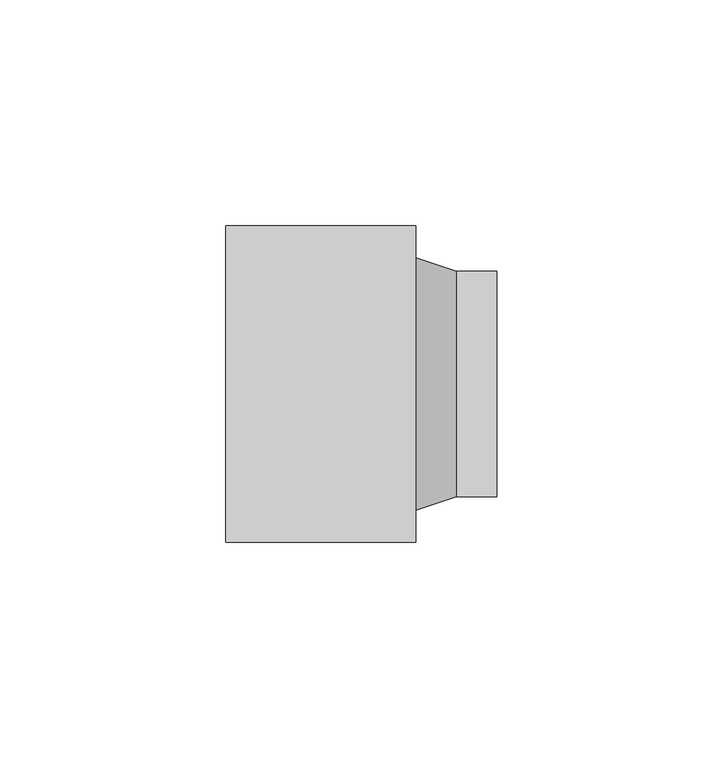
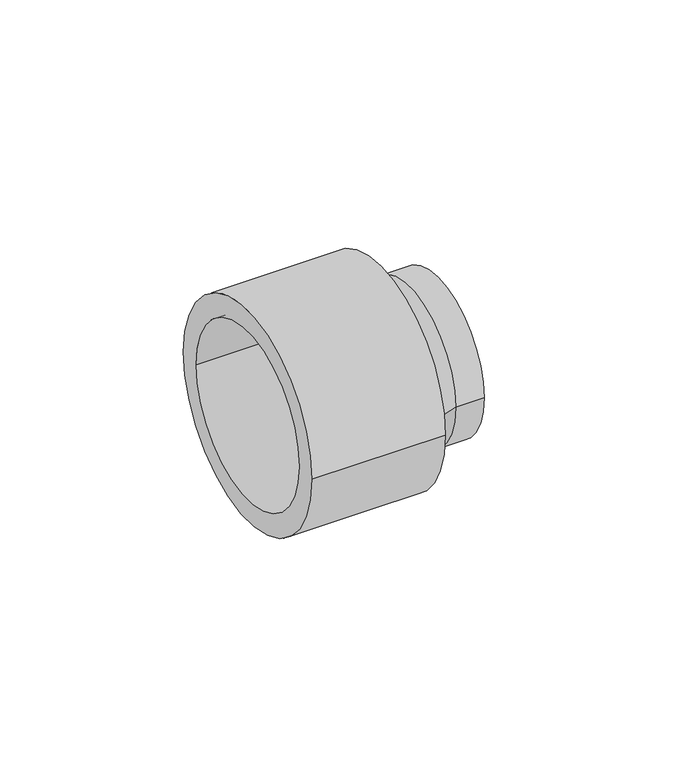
"""IFC4 building model written with IfcOpenShell, lengths in millimetres: pipe fitting geometry."""

from ifc_helpers import new_model, si_unit, point, frame, origin, origin_2d, place, context, project, spatial, polyline, circle_curve, trimmed, segment, composite_curve, outline, extrude, source, transform, mapped, element, save
from ifc_brep_helpers import plane_surface, revolved_surface, advanced_brep


def pipe_fitting_5697ba1b(model_context):
    return source(origin(), model_context, "Body", "SolidModel", [
        advanced_brep(
        [(0.0, -28.0, 0.0), (0.0, 28.0, 0.0), (9.0, -25.0, 0.0), (9.0, 25.0, 0.0)],
        [
            (0, 1, circle_curve(frame((0.0, 0.0, 0.0), z_axis=(-1.0, 0.0, 0.0), x_axis=(0.0, -1.0, 0.0)), 28.0)),
            (1, 0, circle_curve(frame((0.0, 0.0, 0.0), z_axis=(-1.0, 0.0, 0.0), x_axis=(0.0, 1.0, 0.0)), 28.0)),
            (2, 3, circle_curve(frame((9.0, 0.0, 0.0), z_axis=(1.0, 0.0, 0.0), x_axis=(0.0, 1.0, 0.0)), 25.0)),
            (3, 2, circle_curve(frame((9.0, 0.0, 0.0), z_axis=(1.0, 0.0, 0.0), x_axis=(0.0, -1.0, 0.0)), 25.0)),
            (2, 0),
            (1, 3),
        ],
        [
            plane_surface(frame((0.0, 0.0, 0.0), z_axis=(-1.0, 0.0, 0.0), x_axis=(0.0, 0.0, -1.0))),
            plane_surface(frame((9.0, 0.0, 0.0), z_axis=(1.0, 0.0, 0.0), x_axis=(0.0, 0.0, -1.0))),
            revolved_surface(polyline([(9.0, -25.0, 0.0), (0.0, -28.0, 0.0)]), (84.0, 0.0, 0.0), (-1.0, 0.0, 0.0)),
            revolved_surface(polyline([(9.0, 25.0, 0.0), (0.0, 28.0, 0.0)]), (84.0, 0.0, 0.0), (-1.0, 0.0, 0.0)),
        ],
        [
            (0, [[1, 2]]),
            (1, [[3, 4]]),
            (2, [[-3, 5, -2, 6]]),
            (3, [[-4, -6, -1, -5]]),
        ],
    ),
        extrude(outline(composite_curve([segment(trimmed(circle_curve(origin_2d(), 25.0), [point((-25.0, 0.0))], [point((25.0, 0.0))], False, "CARTESIAN"), True, "CONTINUOUS"), segment(trimmed(circle_curve(origin_2d(), 25.0), [point((25.0, 0.0))], [point((-25.0, 0.0))], False, "CARTESIAN"), True, "CONTINUOUS")], self_intersect=False)), frame((9.0, 0.0, 0.0), z_axis=(1.0, 0.0, 0.0), x_axis=(0.0, 1.0, 0.0)), (0.0, 0.0, 1.0), 9.0),
        extrude(outline(composite_curve([segment(trimmed(circle_curve(origin_2d(), 35.0), [point((-35.0, 0.0))], [point((35.0, 0.0))], False, "CARTESIAN"), True, "CONTINUOUS"), segment(trimmed(circle_curve(origin_2d(), 35.0), [point((35.0, 0.0))], [point((-35.0, 0.0))], False, "CARTESIAN"), True, "CONTINUOUS")], self_intersect=False), holes=[composite_curve([segment(trimmed(circle_curve(origin_2d(), 28.0), [point((-28.0, 0.0))], [point((28.0, 0.0))], True, "CARTESIAN"), True, "CONTINUOUS"), segment(trimmed(circle_curve(origin_2d(), 28.0), [point((28.0, 0.0))], [point((-28.0, 0.0))], True, "CARTESIAN"), True, "CONTINUOUS")], self_intersect=False)]), frame((-42.0, 0.0, 0.0), z_axis=(1.0, 0.0, 0.0), x_axis=(0.0, 1.0, 0.0)), (0.0, 0.0, 1.0), 42.0),
    ])


if __name__ == "__main__":
    model = new_model("IFC4")
    model_context = context("Model", 3, world=origin())
    ifc_project = project(units=[si_unit("LENGTHUNIT", "METRE", prefix="MILLI")], contexts=[model_context])
    site = spatial("IfcSite", under=ifc_project)
    building = spatial("IfcBuilding", under=site)
    placement = place(None, origin())
    pipe_fitting_shape = pipe_fitting_5697ba1b(model_context)
    element("IfcPipeFitting", 1, ObjectType="NLRS_52_PIF_UN_PE overgang met binnendraad en klemkoppeling_geb : DN56-Rp2\" / ø56-Rp2\"", at=placement, inside=building, context=model_context, shape_type="MappedRepresentation", body=[
        mapped(pipe_fitting_shape, transform((0.0, 0.0, 0.0), x_axis=(1.0, 0.0, 0.0), y_axis=(0.0, 1.0, 0.0), z_axis=(0.0, 0.0, 1.0))),
    ])
    save(model, "model.ifc")
